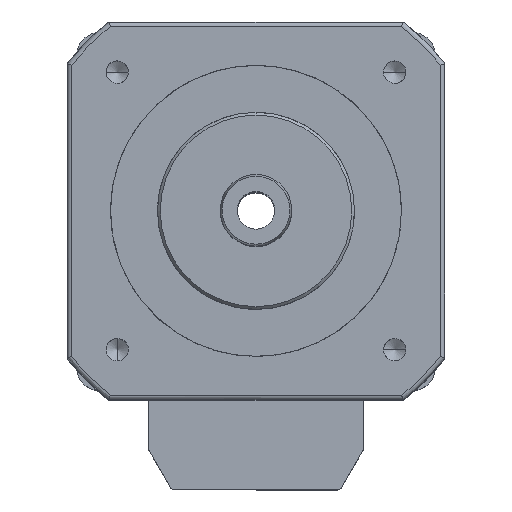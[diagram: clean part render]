
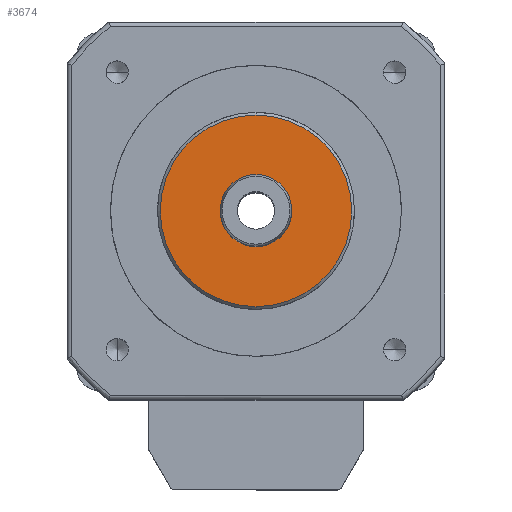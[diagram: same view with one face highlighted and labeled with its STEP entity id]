
A CAD part, top view. The second image highlights one B-rep face of the part: STEP entity #3674.
In plain terms, the highlighted planar face has unit normal (0, 0, 1).
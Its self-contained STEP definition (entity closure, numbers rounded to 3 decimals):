
#1190 = AXIS2_PLACEMENT_3D ( 'NONE', #17391, #12450, #20956 ) ;
#3166 = CARTESIAN_POINT ( 'NONE',  ( -2.947, 0., 50. ) ) ;
#3674 = ADVANCED_FACE ( 'NONE', ( #19577, #14470 ), #9909, .T. ) ;
#3774 = ORIENTED_EDGE ( 'NONE', *, *, #16150, .T. ) ;
#4021 = VERTEX_POINT ( 'NONE', #14701 ) ;
#5432 = CARTESIAN_POINT ( 'NONE',  ( -2.1, 0., 50. ) ) ;
#5696 = DIRECTION ( 'NONE',  ( 0., 0., 1. ) ) ;
#5827 = DIRECTION ( 'NONE',  ( 0., 1., 0. ) ) ;
#6910 = DIRECTION ( 'NONE',  ( 0., 0., -1. ) ) ;
#7473 = ORIENTED_EDGE ( 'NONE', *, *, #17443, .T. ) ;
#7864 = EDGE_LOOP ( 'NONE', ( #3774, #8117 ) ) ;
#8117 = ORIENTED_EDGE ( 'NONE', *, *, #12538, .T. ) ;
#9298 = CARTESIAN_POINT ( 'NONE',  ( 0., -10.7, 50. ) ) ;
#9647 = VERTEX_POINT ( 'NONE', #5432 ) ;
#9657 = CARTESIAN_POINT ( 'NONE',  ( 0., 10.7, 50. ) ) ;
#9909 = PLANE ( 'NONE',  #18466 ) ;
#10056 = DIRECTION ( 'NONE',  ( 0., 1., 0. ) ) ;
#10316 = CARTESIAN_POINT ( 'NONE',  ( 0., 0., 50. ) ) ;
#10459 = CIRCLE ( 'NONE', #1190, 2.1 ) ;
#12450 = DIRECTION ( 'NONE',  ( 0., 0., -1. ) ) ;
#12538 = EDGE_CURVE ( 'NONE', #9647, #4021, #10459, .T. ) ;
#13401 = ORIENTED_EDGE ( 'NONE', *, *, #18906, .T. ) ;
#13529 = AXIS2_PLACEMENT_3D ( 'NONE', #10316, #6910, #20456 ) ;
#13591 = CARTESIAN_POINT ( 'NONE',  ( 0., 0., 50. ) ) ;
#13661 = CIRCLE ( 'NONE', #16891, 10.7 ) ;
#13767 = EDGE_LOOP ( 'NONE', ( #7473, #13401 ) ) ;
#14470 = FACE_OUTER_BOUND ( 'NONE', #13767, .T. ) ;
#14701 = CARTESIAN_POINT ( 'NONE',  ( 2.1, 0., 50. ) ) ;
#15037 = DIRECTION ( 'NONE',  ( 0., 0., 1. ) ) ;
#16150 = EDGE_CURVE ( 'NONE', #4021, #9647, #21362, .T. ) ;
#16891 = AXIS2_PLACEMENT_3D ( 'NONE', #19222, #5696, #5827 ) ;
#17391 = CARTESIAN_POINT ( 'NONE',  ( 0., 0., 50. ) ) ;
#17443 = EDGE_CURVE ( 'NONE', #20556, #20370, #13661, .T. ) ;
#18466 = AXIS2_PLACEMENT_3D ( 'NONE', #3166, #15037, #20059 ) ;
#18760 = AXIS2_PLACEMENT_3D ( 'NONE', #13591, #18856, #10056 ) ;
#18856 = DIRECTION ( 'NONE',  ( 0., 0., 1. ) ) ;
#18906 = EDGE_CURVE ( 'NONE', #20370, #20556, #21709, .T. ) ;
#19222 = CARTESIAN_POINT ( 'NONE',  ( 0., 0., 50. ) ) ;
#19577 = FACE_BOUND ( 'NONE', #7864, .T. ) ;
#20059 = DIRECTION ( 'NONE',  ( 1., 0., 0. ) ) ;
#20370 = VERTEX_POINT ( 'NONE', #9298 ) ;
#20456 = DIRECTION ( 'NONE',  ( 1., 0., 0. ) ) ;
#20556 = VERTEX_POINT ( 'NONE', #9657 ) ;
#20956 = DIRECTION ( 'NONE',  ( 1., 0., 0. ) ) ;
#21362 = CIRCLE ( 'NONE', #13529, 2.1 ) ;
#21709 = CIRCLE ( 'NONE', #18760, 10.7 ) ;
